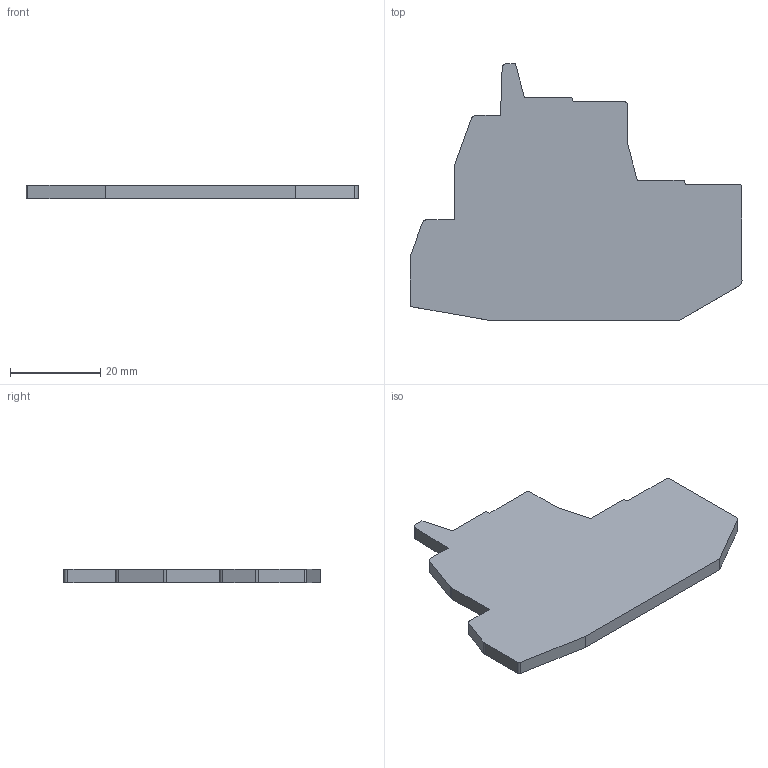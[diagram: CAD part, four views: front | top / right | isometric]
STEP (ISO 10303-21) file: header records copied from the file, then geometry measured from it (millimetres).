
FILE_DESCRIPTION(('Creo Elements/Direct Modeling STEP Export'),'2;1');
FILE_NAME('VPD-PT.stp','2015-01-28T12:22:55',(''),(''),'PTC Creo Elements/Direct Modeling STEP processor for AP214 (Solid Model)','PTC Creo Elements/Direct Modeling 19.0A 04-Oct-2014 (C) Parametric Technology GmbH','');
FILE_SCHEMA(('AUTOMOTIVE_DESIGN { 1 0 10303 214 1 1 1 1 }'));
Length unit declared in the file: millimetre
Products named in the file (1): VPD-PT
Bounding box: 73.55 x 56.9 x 3 mm (x, y, z)
Volume: 8215.4 mm3; surface area: 6311.3 mm2
Topology: 1 solids, 1 shells, 44 faces, 114 edges, 76 vertices
Faces by surface type: plane 27, cylinder 17
Entity records: 1334 total; most frequent: ORIENTED_EDGE 228, CARTESIAN_POINT 227, DIRECTION 222, EDGE_CURVE 114, VECTOR 80, LINE 80, VERTEX_POINT 76, AXIS2_PLACEMENT_3D 71
